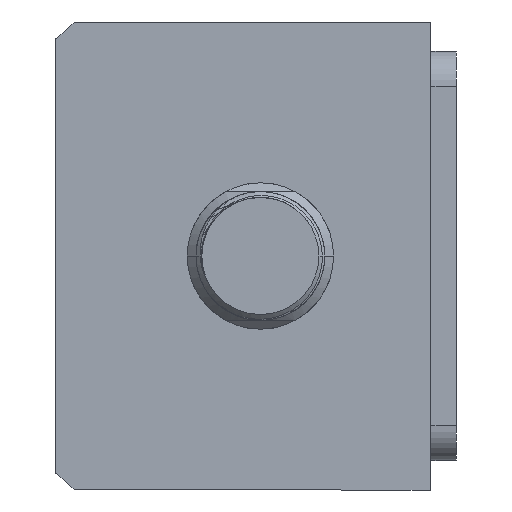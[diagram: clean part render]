
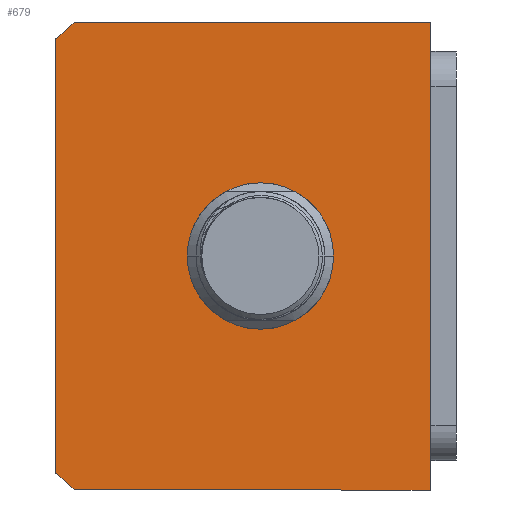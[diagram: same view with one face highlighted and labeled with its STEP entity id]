
A CAD part, front view. The second image highlights one B-rep face of the part: STEP entity #679.
In plain terms, the highlighted planar face has unit normal (0, -1, 0) as drawn and (0, 0, -1) by its records, which use the part's own axes.
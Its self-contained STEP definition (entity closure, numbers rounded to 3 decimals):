
#594 = CIRCLE ( 'NONE', #11441, 51. ) ;
#679 = ADVANCED_FACE ( 'NONE', ( #2036, #12738 ), #7707, .F. ) ;
#891 = DIRECTION ( 'NONE',  ( 0., 0., 1. ) ) ;
#946 = DIRECTION ( 'NONE',  ( 0., 1., 0. ) ) ;
#1021 = DIRECTION ( 'NONE',  ( 1., 0., 0. ) ) ;
#1248 = ORIENTED_EDGE ( 'NONE', *, *, #13503, .F. ) ;
#1257 = EDGE_CURVE ( 'NONE', #16638, #13267, #10532, .T. ) ;
#1292 = ORIENTED_EDGE ( 'NONE', *, *, #16029, .F. ) ;
#1331 = EDGE_CURVE ( 'NONE', #3926, #12835, #16195, .T. ) ;
#1811 = VECTOR ( 'NONE', #946, 1000. ) ;
#2036 = FACE_BOUND ( 'NONE', #3636, .T. ) ;
#2917 = CARTESIAN_POINT ( 'NONE',  ( -40., 32., 0. ) ) ;
#3060 = VERTEX_POINT ( 'NONE', #9444 ) ;
#3075 = CARTESIAN_POINT ( 'NONE',  ( 12.5, 3., 0. ) ) ;
#3636 = EDGE_LOOP ( 'NONE', ( #16039, #5482 ) ) ;
#3789 = DIRECTION ( 'NONE',  ( 0., 0., 1. ) ) ;
#3926 = VERTEX_POINT ( 'NONE', #10738 ) ;
#4439 = CARTESIAN_POINT ( 'NONE',  ( -40., -32., 0. ) ) ;
#4493 = AXIS2_PLACEMENT_3D ( 'NONE', #9247, #891, #10647 ) ;
#5056 = AXIS2_PLACEMENT_3D ( 'NONE', #17733, #9389, #1021 ) ;
#5470 = CARTESIAN_POINT ( 'NONE',  ( -40., 32., 0. ) ) ;
#5482 = ORIENTED_EDGE ( 'NONE', *, *, #1257, .T. ) ;
#5591 = CIRCLE ( 'NONE', #5056, 12.5 ) ;
#5943 = VECTOR ( 'NONE', #8610, 1000. ) ;
#6309 = CARTESIAN_POINT ( 'NONE',  ( 0., 0., 0. ) ) ;
#6563 = DIRECTION ( 'NONE',  ( 0., 0., 1. ) ) ;
#6692 = DIRECTION ( 'NONE',  ( -1., 0., 0. ) ) ;
#7552 = EDGE_CURVE ( 'NONE', #3060, #10886, #594, .T. ) ;
#7707 = PLANE ( 'NONE',  #11708 ) ;
#7928 = LINE ( 'NONE', #16409, #11603 ) ;
#8202 = CIRCLE ( 'NONE', #16607, 51. ) ;
#8274 = ORIENTED_EDGE ( 'NONE', *, *, #1331, .F. ) ;
#8610 = DIRECTION ( 'NONE',  ( 0., -1., 0. ) ) ;
#8764 = ORIENTED_EDGE ( 'NONE', *, *, #9968, .F. ) ;
#8859 = EDGE_LOOP ( 'NONE', ( #11347, #14661, #8764, #8274, #1248, #1292 ) ) ;
#9152 = EDGE_CURVE ( 'NONE', #13267, #16638, #5591, .T. ) ;
#9243 = VECTOR ( 'NONE', #14202, 1000. ) ;
#9247 = CARTESIAN_POINT ( 'NONE',  ( 0., 3., 0. ) ) ;
#9314 = CARTESIAN_POINT ( 'NONE',  ( 40., 32., 0. ) ) ;
#9389 = DIRECTION ( 'NONE',  ( 0., 0., 1. ) ) ;
#9444 = CARTESIAN_POINT ( 'NONE',  ( -40., -28.639, 0. ) ) ;
#9626 = LINE ( 'NONE', #2917, #5943 ) ;
#9695 = LINE ( 'NONE', #4439, #9243 ) ;
#9968 = EDGE_CURVE ( 'NONE', #12835, #13021, #7928, .T. ) ;
#10158 = CARTESIAN_POINT ( 'NONE',  ( -37.094, -32., 0. ) ) ;
#10423 = DIRECTION ( 'NONE',  ( 0., 0., 1. ) ) ;
#10532 = CIRCLE ( 'NONE', #4493, 12.5 ) ;
#10647 = DIRECTION ( 'NONE',  ( 1., 0., 0. ) ) ;
#10738 = CARTESIAN_POINT ( 'NONE',  ( 40., -28.639, 0. ) ) ;
#10886 = VERTEX_POINT ( 'NONE', #10158 ) ;
#11347 = ORIENTED_EDGE ( 'NONE', *, *, #7552, .F. ) ;
#11441 = AXIS2_PLACEMENT_3D ( 'NONE', #14892, #6563, #16284 ) ;
#11603 = VECTOR ( 'NONE', #6692, 1000. ) ;
#11708 = AXIS2_PLACEMENT_3D ( 'NONE', #6309, #10423, #17434 ) ;
#11776 = VERTEX_POINT ( 'NONE', #12186 ) ;
#12136 = CARTESIAN_POINT ( 'NONE',  ( 0., 3., 0. ) ) ;
#12186 = CARTESIAN_POINT ( 'NONE',  ( 37.094, -32., 0. ) ) ;
#12738 = FACE_OUTER_BOUND ( 'NONE', #8859, .T. ) ;
#12835 = VERTEX_POINT ( 'NONE', #14674 ) ;
#13021 = VERTEX_POINT ( 'NONE', #5470 ) ;
#13267 = VERTEX_POINT ( 'NONE', #3075 ) ;
#13503 = EDGE_CURVE ( 'NONE', #11776, #3926, #8202, .T. ) ;
#13556 = DIRECTION ( 'NONE',  ( 1., 0., 0. ) ) ;
#14202 = DIRECTION ( 'NONE',  ( 1., 0., 0. ) ) ;
#14661 = ORIENTED_EDGE ( 'NONE', *, *, #17283, .F. ) ;
#14674 = CARTESIAN_POINT ( 'NONE',  ( 40., 32., 0. ) ) ;
#14892 = CARTESIAN_POINT ( 'NONE',  ( 0., 3., 0. ) ) ;
#15198 = CARTESIAN_POINT ( 'NONE',  ( -12.5, 3., 0. ) ) ;
#16029 = EDGE_CURVE ( 'NONE', #10886, #11776, #9695, .T. ) ;
#16039 = ORIENTED_EDGE ( 'NONE', *, *, #9152, .T. ) ;
#16195 = LINE ( 'NONE', #9314, #1811 ) ;
#16284 = DIRECTION ( 'NONE',  ( 1., 0., 0. ) ) ;
#16409 = CARTESIAN_POINT ( 'NONE',  ( -40., 32., 0. ) ) ;
#16607 = AXIS2_PLACEMENT_3D ( 'NONE', #12136, #3789, #13556 ) ;
#16638 = VERTEX_POINT ( 'NONE', #15198 ) ;
#17283 = EDGE_CURVE ( 'NONE', #13021, #3060, #9626, .T. ) ;
#17434 = DIRECTION ( 'NONE',  ( 1., 0., 0. ) ) ;
#17733 = CARTESIAN_POINT ( 'NONE',  ( 0., 3., 0. ) ) ;
